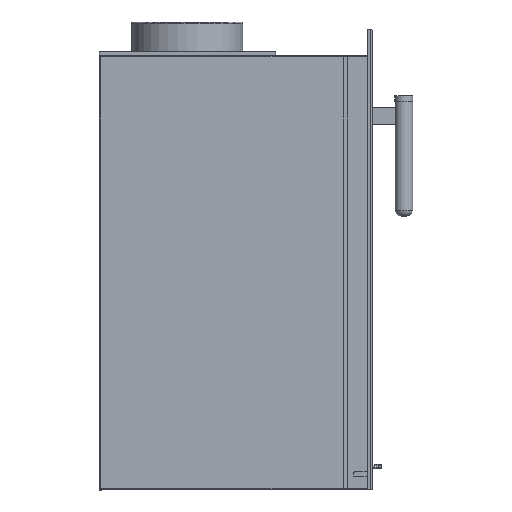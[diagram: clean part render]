
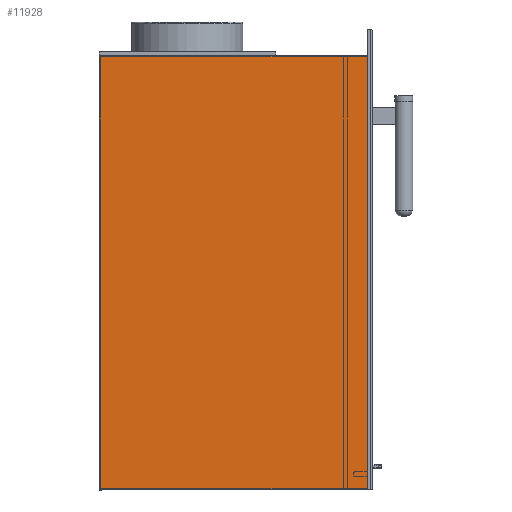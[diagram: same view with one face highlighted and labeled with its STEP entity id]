
A CAD part, left-side view. The second image highlights one B-rep face of the part: STEP entity #11928.
In plain terms, the highlighted planar face has unit normal (-1, 0, 0).
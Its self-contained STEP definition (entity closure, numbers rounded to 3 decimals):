
#1286=ORIENTED_EDGE('',*,*,#4522,.T.);
#1287=ORIENTED_EDGE('',*,*,#4794,.F.);
#1288=ORIENTED_EDGE('',*,*,#4571,.F.);
#1289=ORIENTED_EDGE('',*,*,#4813,.T.);
#4522=EDGE_CURVE('',#6288,#6294,#7433,.T.);
#4571=EDGE_CURVE('',#6341,#6342,#7468,.T.);
#4794=EDGE_CURVE('',#6342,#6294,#7643,.T.);
#4813=EDGE_CURVE('',#6341,#6288,#7661,.T.);
#6288=VERTEX_POINT('',#17043);
#6294=VERTEX_POINT('',#17055);
#6341=VERTEX_POINT('',#17293);
#6342=VERTEX_POINT('',#17295);
#7433=LINE('',#17056,#8647);
#7468=LINE('',#17294,#8682);
#7643=LINE('',#18260,#8857);
#7661=LINE('',#18295,#8875);
#8647=VECTOR('',#13816,1000.);
#8682=VECTOR('',#13859,1000.);
#8857=VECTOR('',#14036,1000.);
#8875=VECTOR('',#14068,1000.);
#9896=EDGE_LOOP('',(#1286,#1287,#1288,#1289));
#10732=FACE_BOUND('',#9896,.T.);
#11525=PLANE('',#12797);
#11928=ADVANCED_FACE('',(#10732),#11525,.F.);
#12797=AXIS2_PLACEMENT_3D('',#18294,#14066,#14067);
#13816=DIRECTION('',(0.,0.,1.));
#13859=DIRECTION('',(0.,0.,1.));
#14036=DIRECTION('',(0.,-1.,0.));
#14066=DIRECTION('',(1.,0.,0.));
#14067=DIRECTION('',(0.,0.,-1.));
#14068=DIRECTION('',(0.,-1.,0.));
#17043=CARTESIAN_POINT('',(-257.,-21.,0.));
#17055=CARTESIAN_POINT('',(-257.,-21.,565.));
#17056=CARTESIAN_POINT('',(-257.,-21.,0.));
#17293=CARTESIAN_POINT('',(-257.,327.5,0.));
#17294=CARTESIAN_POINT('',(-257.,327.5,0.));
#17295=CARTESIAN_POINT('',(-257.,327.5,565.));
#18260=CARTESIAN_POINT('',(-257.,327.5,565.));
#18294=CARTESIAN_POINT('',(-257.,327.5,0.));
#18295=CARTESIAN_POINT('',(-257.,327.5,0.));
